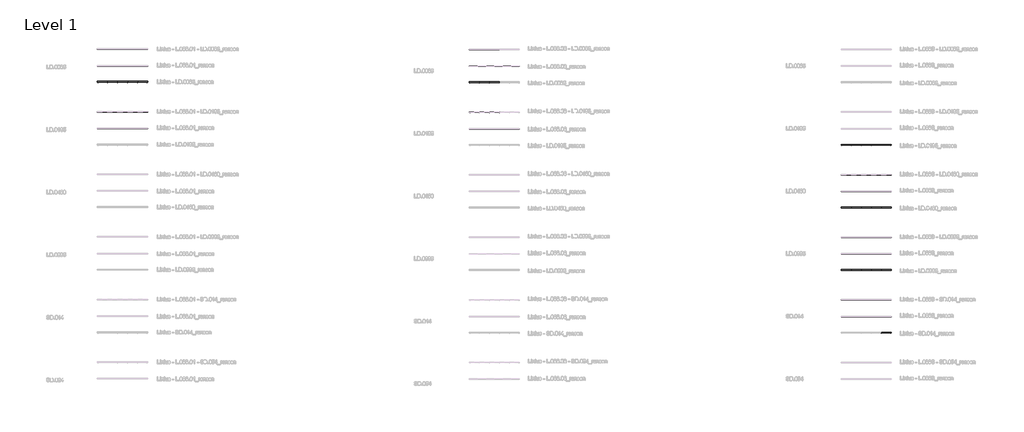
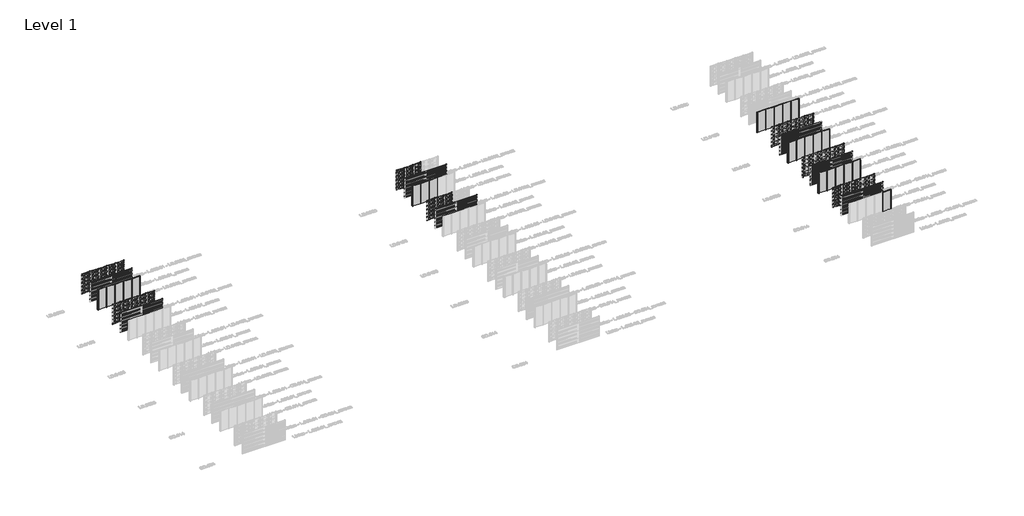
# One storey, part 5 of 540: 66 members, 62 plates.
"""IFC4 building model written with IfcOpenShell, lengths in millimetres."""

from ifc_helpers import new_model, si_unit, origin, origin_with_axes, place, context, project, spatial, polyline, outline, extrude, transform, mapped, element, save
from components import rectangular_mullion_42be434b, rectangular_mullion_e1f482b2, rectangular_mullion_21e3ddae, rectangular_mullion_fb497acc, rectangular_mullion_3facce28, rectangular_mullion_ffdfeaf4, rectangular_mullion_e0a14876, rectangular_mullion_146f339b, rectangular_mullion_aa1047c5, rectangular_mullion_c2c7736a, rectangular_mullion_35b0a916, rectangular_mullion_bd250e2e, rectangular_mullion_7b49c8f1, rectangular_mullion_2b84ad7e, rectangular_mullion_0fd695e7, empty_system_panel_empty_aabbdda4

model = new_model("IFC4")

# Units and contexts
model_context = context("Model", 3, world=origin())
ifc_project = project(units=[si_unit("LENGTHUNIT", "METRE", prefix="MILLI")], contexts=[model_context])

# Site, building, storey
site = spatial("IfcSite", under=ifc_project)
building = spatial("IfcBuilding", under=site)
storey = spatial("IfcBuildingStorey", under=building, Name="Level 1", Elevation=0.0)

# Members
placement = place(None, origin())
rectangular_mullion_shape = rectangular_mullion_42be434b(model_context)
element("IfcMember", 1, ObjectType="Rectangular Mullion : LD.0065_renson", at=placement, inside=storey, context=model_context, shape_type="MappedRepresentation", body=[
    mapped(rectangular_mullion_shape, transform((4066.6208096, 74024.0540136, 0.0), x_axis=(-1.0, 0.0, 0.0), y_axis=(0.0, 1.0, 0.0), z_axis=(0.0, 0.0, -1.0))),
])
element("IfcMember", 2, ObjectType="Rectangular Mullion : LD.0065_renson", at=placement, inside=storey, context=model_context, shape_type="MappedRepresentation", body=[
    mapped(rectangular_mullion_shape, transform((2866.6208097, 74024.0540136, 0.0), x_axis=(-1.0, 0.0, 0.0), y_axis=(0.0, 1.0, 0.0), z_axis=(0.0, 0.0, -1.0))),
])
element("IfcMember", 3, ObjectType="Rectangular Mullion : LD.0065_renson", at=placement, inside=storey, context=model_context, shape_type="MappedRepresentation", body=[
    mapped(rectangular_mullion_shape, transform((1666.6208099, 74024.0540136, 0.0), x_axis=(-1.0, 0.0, 0.0), y_axis=(0.0, 1.0, 0.0), z_axis=(0.0, 0.0, -1.0))),
])
element("IfcMember", 4, ObjectType="Rectangular Mullion : LD.0065_renson", at=placement, inside=storey, context=model_context, shape_type="MappedRepresentation", body=[
    mapped(rectangular_mullion_shape, transform((4066.6208096, 70024.0540136, 0.0), x_axis=(-1.0, 0.0, 0.0), y_axis=(0.0, 1.0, 0.0), z_axis=(0.0, 0.0, -1.0))),
])
element("IfcMember", 5, ObjectType="Rectangular Mullion : LD.0065_renson", at=placement, inside=storey, context=model_context, shape_type="MappedRepresentation", body=[
    mapped(rectangular_mullion_shape, transform((2866.6208097, 70024.0540136, 0.0), x_axis=(-1.0, 0.0, 0.0), y_axis=(0.0, 1.0, 0.0), z_axis=(0.0, 0.0, -1.0))),
])
element("IfcMember", 6, ObjectType="Rectangular Mullion : LD.0065_renson", at=placement, inside=storey, context=model_context, shape_type="MappedRepresentation", body=[
    mapped(rectangular_mullion_shape, transform((1666.6208099, 70024.0540136, 0.0), x_axis=(-1.0, 0.0, 0.0), y_axis=(0.0, 1.0, 0.0), z_axis=(0.0, 0.0, -1.0))),
])
element("IfcMember", 7, ObjectType="Rectangular Mullion : LD.0065_renson", at=placement, inside=storey, context=model_context, shape_type="MappedRepresentation", body=[
    mapped(rectangular_mullion_shape, transform((5266.6208095, 70024.0540136, 0.0), x_axis=(-1.0, 0.0, 0.0), y_axis=(0.0, 1.0, 0.0), z_axis=(0.0, 0.0, -1.0))),
])
element("IfcMember", 8, ObjectType="Rectangular Mullion : LD.0065_renson", at=placement, inside=storey, context=model_context, shape_type="MappedRepresentation", body=[
    mapped(rectangular_mullion_shape, transform((5266.6208095, 74024.0540136, 0.0), x_axis=(-1.0, 0.0, 0.0), y_axis=(0.0, 1.0, 0.0), z_axis=(0.0, 0.0, -1.0))),
])
element("IfcMember", 9, ObjectType="Rectangular Mullion : LD.0065_renson", at=placement, inside=storey, context=model_context, shape_type="MappedRepresentation", body=[
    mapped(rectangular_mullion_shape, transform((47366.6208097, 73981.0540136, 0.0), x_axis=(-1.0, 0.0, 0.0), y_axis=(0.0, 1.0, 0.0), z_axis=(0.0, 0.0, -1.0))),
])
element("IfcMember", 10, ObjectType="Rectangular Mullion : LD.0065_renson", at=placement, inside=storey, context=model_context, shape_type="MappedRepresentation", body=[
    mapped(rectangular_mullion_shape, transform((46166.6208097, 73981.0540136, 0.0), x_axis=(-1.0, 0.0, 0.0), y_axis=(0.0, 1.0, 0.0), z_axis=(0.0, 0.0, -1.0))),
])
element("IfcMember", 11, ObjectType="Rectangular Mullion : LD.0065_renson", at=placement, inside=storey, context=model_context, shape_type="MappedRepresentation", body=[
    mapped(rectangular_mullion_shape, transform((47366.6208097, 69981.0540136, 0.0), x_axis=(-1.0, 0.0, 0.0), y_axis=(0.0, 1.0, 0.0), z_axis=(0.0, 0.0, -1.0))),
])
element("IfcMember", 12, ObjectType="Rectangular Mullion : LD.0065_renson", at=placement, inside=storey, context=model_context, shape_type="MappedRepresentation", body=[
    mapped(rectangular_mullion_shape, transform((46166.6208097, 69981.0540136, 0.0), x_axis=(-1.0, 0.0, 0.0), y_axis=(0.0, 1.0, 0.0), z_axis=(0.0, 0.0, -1.0))),
])
rectangular_mullion_2_shape = rectangular_mullion_e1f482b2(model_context)
element("IfcMember", 13, ObjectType="Rectangular Mullion : LD.0195_renson", at=placement, inside=storey, context=model_context, shape_type="MappedRepresentation", body=[
    mapped(rectangular_mullion_2_shape, transform((4066.6208096, 66524.0540136, 0.0), x_axis=(-1.0, 0.0, 0.0), y_axis=(0.0, 1.0, 0.0), z_axis=(0.0, 0.0, -1.0))),
])
element("IfcMember", 14, ObjectType="Rectangular Mullion : LD.0195_renson", at=placement, inside=storey, context=model_context, shape_type="MappedRepresentation", body=[
    mapped(rectangular_mullion_2_shape, transform((2866.6208097, 66524.0540136, 0.0), x_axis=(-1.0, 0.0, 0.0), y_axis=(0.0, 1.0, 0.0), z_axis=(0.0, 0.0, -1.0))),
])
element("IfcMember", 15, ObjectType="Rectangular Mullion : LD.0195_renson", at=placement, inside=storey, context=model_context, shape_type="MappedRepresentation", body=[
    mapped(rectangular_mullion_2_shape, transform((1666.6208099, 66524.0540136, 0.0), x_axis=(-1.0, 0.0, 0.0), y_axis=(0.0, 1.0, 0.0), z_axis=(0.0, 0.0, -1.0))),
])
element("IfcMember", 16, ObjectType="Rectangular Mullion : LD.0195_renson", at=placement, inside=storey, context=model_context, shape_type="MappedRepresentation", body=[
    mapped(rectangular_mullion_2_shape, transform((5266.6208095, 66524.0540136, 0.0), x_axis=(-1.0, 0.0, 0.0), y_axis=(0.0, 1.0, 0.0), z_axis=(0.0, 0.0, -1.0))),
])
element("IfcMember", 17, ObjectType="Rectangular Mullion : LD.0195_renson", at=placement, inside=storey, context=model_context, shape_type="MappedRepresentation", body=[
    mapped(rectangular_mullion_2_shape, transform((48566.6208097, 66481.0540136, 0.0), x_axis=(-1.0, 0.0, 0.0), y_axis=(0.0, 1.0, 0.0), z_axis=(0.0, 0.0, -1.0))),
])
element("IfcMember", 18, ObjectType="Rectangular Mullion : LD.0195_renson", at=placement, inside=storey, context=model_context, shape_type="MappedRepresentation", body=[
    mapped(rectangular_mullion_2_shape, transform((47366.6208097, 66481.0540136, 0.0), x_axis=(-1.0, 0.0, 0.0), y_axis=(0.0, 1.0, 0.0), z_axis=(0.0, 0.0, -1.0))),
])
element("IfcMember", 19, ObjectType="Rectangular Mullion : LD.0195_renson", at=placement, inside=storey, context=model_context, shape_type="MappedRepresentation", body=[
    mapped(rectangular_mullion_2_shape, transform((46166.6208097, 66481.0540136, 0.0), x_axis=(-1.0, 0.0, 0.0), y_axis=(0.0, 1.0, 0.0), z_axis=(0.0, 0.0, -1.0))),
])
element("IfcMember", 20, ObjectType="Rectangular Mullion : LD.0195_renson", at=placement, inside=storey, context=model_context, shape_type="MappedRepresentation", body=[
    mapped(rectangular_mullion_2_shape, transform((94266.6208095, 62483.0540136, 0.0), x_axis=(-1.0, 0.0, 0.0), y_axis=(0.0, 1.0, 0.0), z_axis=(0.0, 0.0, -1.0))),
])
element("IfcMember", 21, ObjectType="Rectangular Mullion : LD.0195_renson", at=placement, inside=storey, context=model_context, shape_type="MappedRepresentation", body=[
    mapped(rectangular_mullion_2_shape, transform((93066.6208096, 62483.0540136, 0.0), x_axis=(-1.0, 0.0, 0.0), y_axis=(0.0, 1.0, 0.0), z_axis=(0.0, 0.0, -1.0))),
])
element("IfcMember", 22, ObjectType="Rectangular Mullion : LD.0195_renson", at=placement, inside=storey, context=model_context, shape_type="MappedRepresentation", body=[
    mapped(rectangular_mullion_2_shape, transform((91866.6208097, 62483.0540136, 0.0), x_axis=(-1.0, 0.0, 0.0), y_axis=(0.0, 1.0, 0.0), z_axis=(0.0, 0.0, -1.0))),
])
element("IfcMember", 23, ObjectType="Rectangular Mullion : LD.0195_renson", at=placement, inside=storey, context=model_context, shape_type="MappedRepresentation", body=[
    mapped(rectangular_mullion_2_shape, transform((90666.6208099, 62483.0540136, 0.0), x_axis=(-1.0, 0.0, 0.0), y_axis=(0.0, 1.0, 0.0), z_axis=(0.0, 0.0, -1.0))),
])
rectangular_mullion_3_shape = rectangular_mullion_21e3ddae(model_context)
element("IfcMember", 24, ObjectType="Rectangular Mullion : LD.0460_renson", at=placement, inside=storey, context=model_context, shape_type="MappedRepresentation", body=[
    mapped(rectangular_mullion_3_shape, transform((93066.6208096, 58983.0540136, 0.0), x_axis=(-1.0, 0.0, 0.0), y_axis=(0.0, 1.0, 0.0), z_axis=(0.0, 0.0, -1.0))),
])
element("IfcMember", 25, ObjectType="Rectangular Mullion : LD.0460_renson", at=placement, inside=storey, context=model_context, shape_type="MappedRepresentation", body=[
    mapped(rectangular_mullion_3_shape, transform((91866.6208097, 58983.0540136, 0.0), x_axis=(-1.0, 0.0, 0.0), y_axis=(0.0, 1.0, 0.0), z_axis=(0.0, 0.0, -1.0))),
])
element("IfcMember", 26, ObjectType="Rectangular Mullion : LD.0460_renson", at=placement, inside=storey, context=model_context, shape_type="MappedRepresentation", body=[
    mapped(rectangular_mullion_3_shape, transform((90666.6208099, 58983.0540136, 0.0), x_axis=(-1.0, 0.0, 0.0), y_axis=(0.0, 1.0, 0.0), z_axis=(0.0, 0.0, -1.0))),
])
element("IfcMember", 27, ObjectType="Rectangular Mullion : LD.0460_renson", at=placement, inside=storey, context=model_context, shape_type="MappedRepresentation", body=[
    mapped(rectangular_mullion_3_shape, transform((94266.6208095, 54983.0540136, 0.0), x_axis=(-1.0, 0.0, 0.0), y_axis=(0.0, 1.0, 0.0), z_axis=(0.0, 0.0, -1.0))),
])
element("IfcMember", 28, ObjectType="Rectangular Mullion : LD.0460_renson", at=placement, inside=storey, context=model_context, shape_type="MappedRepresentation", body=[
    mapped(rectangular_mullion_3_shape, transform((93066.6208096, 54983.0540136, 0.0), x_axis=(-1.0, 0.0, 0.0), y_axis=(0.0, 1.0, 0.0), z_axis=(0.0, 0.0, -1.0))),
])
element("IfcMember", 29, ObjectType="Rectangular Mullion : LD.0460_renson", at=placement, inside=storey, context=model_context, shape_type="MappedRepresentation", body=[
    mapped(rectangular_mullion_3_shape, transform((91866.6208097, 54983.0540136, 0.0), x_axis=(-1.0, 0.0, 0.0), y_axis=(0.0, 1.0, 0.0), z_axis=(0.0, 0.0, -1.0))),
])
element("IfcMember", 30, ObjectType="Rectangular Mullion : LD.0460_renson", at=placement, inside=storey, context=model_context, shape_type="MappedRepresentation", body=[
    mapped(rectangular_mullion_3_shape, transform((90666.6208099, 54983.0540136, 0.0), x_axis=(-1.0, 0.0, 0.0), y_axis=(0.0, 1.0, 0.0), z_axis=(0.0, 0.0, -1.0))),
])
element("IfcMember", 31, ObjectType="Rectangular Mullion : LD.0460_renson", at=placement, inside=storey, context=model_context, shape_type="MappedRepresentation", body=[
    mapped(rectangular_mullion_3_shape, transform((94266.6208095, 58983.0540136, 0.0), x_axis=(-1.0, 0.0, 0.0), y_axis=(0.0, 1.0, 0.0), z_axis=(0.0, 0.0, -1.0))),
])
rectangular_mullion_4_shape = rectangular_mullion_fb497acc(model_context)
element("IfcMember", 32, ObjectType="Rectangular Mullion : LD.0995_renson", at=placement, inside=storey, context=model_context, shape_type="MappedRepresentation", body=[
    mapped(rectangular_mullion_4_shape, transform((93066.6208096, 51483.0540136, 0.0), x_axis=(-1.0, 0.0, 0.0), y_axis=(0.0, 1.0, 0.0), z_axis=(0.0, 0.0, -1.0))),
])
element("IfcMember", 33, ObjectType="Rectangular Mullion : LD.0995_renson", at=placement, inside=storey, context=model_context, shape_type="MappedRepresentation", body=[
    mapped(rectangular_mullion_4_shape, transform((91866.6208097, 51483.0540136, 0.0), x_axis=(-1.0, 0.0, 0.0), y_axis=(0.0, 1.0, 0.0), z_axis=(0.0, 0.0, -1.0))),
])
element("IfcMember", 34, ObjectType="Rectangular Mullion : LD.0995_renson", at=placement, inside=storey, context=model_context, shape_type="MappedRepresentation", body=[
    mapped(rectangular_mullion_4_shape, transform((90666.6208099, 51483.0540136, 0.0), x_axis=(-1.0, 0.0, 0.0), y_axis=(0.0, 1.0, 0.0), z_axis=(0.0, 0.0, -1.0))),
])
element("IfcMember", 35, ObjectType="Rectangular Mullion : LD.0995_renson", at=placement, inside=storey, context=model_context, shape_type="MappedRepresentation", body=[
    mapped(rectangular_mullion_4_shape, transform((94266.6208095, 47483.0540136, 0.0), x_axis=(-1.0, 0.0, 0.0), y_axis=(0.0, 1.0, 0.0), z_axis=(0.0, 0.0, -1.0))),
])
element("IfcMember", 36, ObjectType="Rectangular Mullion : LD.0995_renson", at=placement, inside=storey, context=model_context, shape_type="MappedRepresentation", body=[
    mapped(rectangular_mullion_4_shape, transform((93066.6208096, 47483.0540136, 0.0), x_axis=(-1.0, 0.0, 0.0), y_axis=(0.0, 1.0, 0.0), z_axis=(0.0, 0.0, -1.0))),
])
element("IfcMember", 37, ObjectType="Rectangular Mullion : LD.0995_renson", at=placement, inside=storey, context=model_context, shape_type="MappedRepresentation", body=[
    mapped(rectangular_mullion_4_shape, transform((91866.6208097, 47483.0540136, 0.0), x_axis=(-1.0, 0.0, 0.0), y_axis=(0.0, 1.0, 0.0), z_axis=(0.0, 0.0, -1.0))),
])
element("IfcMember", 38, ObjectType="Rectangular Mullion : LD.0995_renson", at=placement, inside=storey, context=model_context, shape_type="MappedRepresentation", body=[
    mapped(rectangular_mullion_4_shape, transform((90666.6208099, 47483.0540136, 0.0), x_axis=(-1.0, 0.0, 0.0), y_axis=(0.0, 1.0, 0.0), z_axis=(0.0, 0.0, -1.0))),
])
element("IfcMember", 39, ObjectType="Rectangular Mullion : LD.0995_renson", at=placement, inside=storey, context=model_context, shape_type="MappedRepresentation", body=[
    mapped(rectangular_mullion_4_shape, transform((94266.6208095, 51483.0540136, 0.0), x_axis=(-1.0, 0.0, 0.0), y_axis=(0.0, 1.0, 0.0), z_axis=(0.0, 0.0, -1.0))),
])
rectangular_mullion_5_shape = rectangular_mullion_3facce28(model_context)
element("IfcMember", 40, ObjectType="Rectangular Mullion : SD.014_renson", at=placement, inside=storey, context=model_context, shape_type="MappedRepresentation", body=[
    mapped(rectangular_mullion_5_shape, transform((93066.6208096, 43983.0540136, 0.0), x_axis=(-1.0, 0.0, 0.0), y_axis=(0.0, 1.0, 0.0), z_axis=(0.0, 0.0, -1.0))),
])
element("IfcMember", 41, ObjectType="Rectangular Mullion : SD.014_renson", at=placement, inside=storey, context=model_context, shape_type="MappedRepresentation", body=[
    mapped(rectangular_mullion_5_shape, transform((91866.6208097, 43983.0540136, 0.0), x_axis=(-1.0, 0.0, 0.0), y_axis=(0.0, 1.0, 0.0), z_axis=(0.0, 0.0, -1.0))),
])
element("IfcMember", 42, ObjectType="Rectangular Mullion : SD.014_renson", at=placement, inside=storey, context=model_context, shape_type="MappedRepresentation", body=[
    mapped(rectangular_mullion_5_shape, transform((90666.6208099, 43983.0540136, 0.0), x_axis=(-1.0, 0.0, 0.0), y_axis=(0.0, 1.0, 0.0), z_axis=(0.0, 0.0, -1.0))),
])
element("IfcMember", 43, ObjectType="Rectangular Mullion : SD.014_renson", at=placement, inside=storey, context=model_context, shape_type="MappedRepresentation", body=[
    mapped(rectangular_mullion_5_shape, transform((94266.6208095, 39983.0540136, 0.0), x_axis=(-1.0, 0.0, 0.0), y_axis=(0.0, 1.0, 0.0), z_axis=(0.0, 0.0, -1.0))),
])
element("IfcMember", 44, ObjectType="Rectangular Mullion : SD.014_renson", at=placement, inside=storey, context=model_context, shape_type="MappedRepresentation", body=[
    mapped(rectangular_mullion_5_shape, transform((94266.6208095, 43983.0540136, 0.0), x_axis=(-1.0, 0.0, 0.0), y_axis=(0.0, 1.0, 0.0), z_axis=(0.0, 0.0, -1.0))),
])
rectangular_mullion_6_shape = rectangular_mullion_ffdfeaf4(model_context)
element("IfcMember", 45, ObjectType="Rectangular Mullion : LD.0065 - left_renson", at=placement, inside=storey, context=model_context, shape_type="MappedRepresentation", body=[
    mapped(rectangular_mullion_6_shape, transform((466.6208097, 74024.0540136, 0.0), x_axis=(-1.0, 0.0, 0.0), y_axis=(0.0, 1.0, 0.0), z_axis=(0.0, 0.0, -1.0))),
])
element("IfcMember", 46, ObjectType="Rectangular Mullion : LD.0065 - left_renson", at=placement, inside=storey, context=model_context, shape_type="MappedRepresentation", body=[
    mapped(rectangular_mullion_6_shape, transform((466.6208097, 70024.0540136, 0.0), x_axis=(-1.0, 0.0, 0.0), y_axis=(0.0, 1.0, 0.0), z_axis=(0.0, 0.0, -1.0))),
])
element("IfcMember", 47, ObjectType="Rectangular Mullion : LD.0065 - left_renson", at=placement, inside=storey, context=model_context, shape_type="MappedRepresentation", body=[
    mapped(rectangular_mullion_6_shape, transform((44966.6208097, 73981.0540136, 0.0), x_axis=(-1.0, 0.0, 0.0), y_axis=(0.0, 1.0, 0.0), z_axis=(0.0, 0.0, -1.0))),
])
element("IfcMember", 48, ObjectType="Rectangular Mullion : LD.0065 - left_renson", at=placement, inside=storey, context=model_context, shape_type="MappedRepresentation", body=[
    mapped(rectangular_mullion_6_shape, transform((44966.6208097, 69981.0540136, 0.0), x_axis=(-1.0, 0.0, 0.0), y_axis=(0.0, 1.0, 0.0), z_axis=(0.0, 0.0, -1.0))),
])
rectangular_mullion_7_shape = rectangular_mullion_e0a14876(model_context)
element("IfcMember", 49, ObjectType="Rectangular Mullion : LD.0065 - right_renson", at=placement, inside=storey, context=model_context, shape_type="MappedRepresentation", body=[
    mapped(rectangular_mullion_7_shape, transform((6466.6208097, 74024.0540136, 3000.0), x_axis=(1.0, 0.0, 0.0), y_axis=(0.0, 1.0, 0.0), z_axis=(0.0, 0.0, 1.0))),
])
element("IfcMember", 50, ObjectType="Rectangular Mullion : LD.0065 - right_renson", at=placement, inside=storey, context=model_context, shape_type="MappedRepresentation", body=[
    mapped(rectangular_mullion_7_shape, transform((6466.6208097, 70024.0540136, 3000.0), x_axis=(1.0, 0.0, 0.0), y_axis=(0.0, 1.0, 0.0), z_axis=(0.0, 0.0, 1.0))),
])
rectangular_mullion_8_shape = rectangular_mullion_146f339b(model_context)
element("IfcMember", 51, ObjectType="Rectangular Mullion : LD.0195 - left_renson", at=placement, inside=storey, context=model_context, shape_type="MappedRepresentation", body=[
    mapped(rectangular_mullion_8_shape, transform((466.6208097, 66524.0540136, 0.0), x_axis=(-1.0, 0.0, 0.0), y_axis=(0.0, 1.0, 0.0), z_axis=(0.0, 0.0, -1.0))),
])
element("IfcMember", 52, ObjectType="Rectangular Mullion : LD.0195 - left_renson", at=placement, inside=storey, context=model_context, shape_type="MappedRepresentation", body=[
    mapped(rectangular_mullion_8_shape, transform((44966.6208097, 66481.0540136, 0.0), x_axis=(-1.0, 0.0, 0.0), y_axis=(0.0, 1.0, 0.0), z_axis=(0.0, 0.0, -1.0))),
])
element("IfcMember", 53, ObjectType="Rectangular Mullion : LD.0195 - left_renson", at=placement, inside=storey, context=model_context, shape_type="MappedRepresentation", body=[
    mapped(rectangular_mullion_8_shape, transform((89466.6208097, 62483.0540136, 0.0), x_axis=(-1.0, 0.0, 0.0), y_axis=(0.0, 1.0, 0.0), z_axis=(0.0, 0.0, -1.0))),
])
rectangular_mullion_9_shape = rectangular_mullion_aa1047c5(model_context)
element("IfcMember", 54, ObjectType="Rectangular Mullion : LD.0195 - right_renson", at=placement, inside=storey, context=model_context, shape_type="MappedRepresentation", body=[
    mapped(rectangular_mullion_9_shape, transform((6466.6208097, 66524.0540136, 3000.0), x_axis=(1.0, 0.0, 0.0), y_axis=(0.0, 1.0, 0.0), z_axis=(0.0, 0.0, 1.0))),
])
element("IfcMember", 55, ObjectType="Rectangular Mullion : LD.0195 - right_renson", at=placement, inside=storey, context=model_context, shape_type="MappedRepresentation", body=[
    mapped(rectangular_mullion_9_shape, transform((95466.6208097, 62483.0540136, 3000.0), x_axis=(1.0, 0.0, 0.0), y_axis=(0.0, 1.0, 0.0), z_axis=(0.0, 0.0, 1.0))),
])
rectangular_mullion_10_shape = rectangular_mullion_c2c7736a(model_context)
element("IfcMember", 56, ObjectType="Rectangular Mullion : LD.0460 - left_renson", at=placement, inside=storey, context=model_context, shape_type="MappedRepresentation", body=[
    mapped(rectangular_mullion_10_shape, transform((89466.6208097, 58983.0540136, 0.0), x_axis=(-1.0, 0.0, 0.0), y_axis=(0.0, 1.0, 0.0), z_axis=(0.0, 0.0, -1.0))),
])
element("IfcMember", 57, ObjectType="Rectangular Mullion : LD.0460 - left_renson", at=placement, inside=storey, context=model_context, shape_type="MappedRepresentation", body=[
    mapped(rectangular_mullion_10_shape, transform((89466.6208097, 54983.0540136, 0.0), x_axis=(-1.0, 0.0, 0.0), y_axis=(0.0, 1.0, 0.0), z_axis=(0.0, 0.0, -1.0))),
])
rectangular_mullion_11_shape = rectangular_mullion_35b0a916(model_context)
element("IfcMember", 58, ObjectType="Rectangular Mullion : LD.0460 - right_renson", at=placement, inside=storey, context=model_context, shape_type="MappedRepresentation", body=[
    mapped(rectangular_mullion_11_shape, transform((95466.6208097, 58983.0540136, 3000.0), x_axis=(1.0, 0.0, 0.0), y_axis=(0.0, 1.0, 0.0), z_axis=(0.0, 0.0, 1.0))),
])
element("IfcMember", 59, ObjectType="Rectangular Mullion : LD.0460 - right_renson", at=placement, inside=storey, context=model_context, shape_type="MappedRepresentation", body=[
    mapped(rectangular_mullion_11_shape, transform((95466.6208097, 54983.0540136, 3000.0), x_axis=(1.0, 0.0, 0.0), y_axis=(0.0, 1.0, 0.0), z_axis=(0.0, 0.0, 1.0))),
])
rectangular_mullion_12_shape = rectangular_mullion_bd250e2e(model_context)
element("IfcMember", 60, ObjectType="Rectangular Mullion : LD.0995 - left_renson", at=placement, inside=storey, context=model_context, shape_type="MappedRepresentation", body=[
    mapped(rectangular_mullion_12_shape, transform((89466.6208097, 51483.0540136, 0.0), x_axis=(-1.0, 0.0, 0.0), y_axis=(0.0, 1.0, 0.0), z_axis=(0.0, 0.0, -1.0))),
])
element("IfcMember", 61, ObjectType="Rectangular Mullion : LD.0995 - left_renson", at=placement, inside=storey, context=model_context, shape_type="MappedRepresentation", body=[
    mapped(rectangular_mullion_12_shape, transform((89466.6208097, 47483.0540136, 0.0), x_axis=(-1.0, 0.0, 0.0), y_axis=(0.0, 1.0, 0.0), z_axis=(0.0, 0.0, -1.0))),
])
rectangular_mullion_13_shape = rectangular_mullion_7b49c8f1(model_context)
element("IfcMember", 62, ObjectType="Rectangular Mullion : LD.0995 - right_renson", at=placement, inside=storey, context=model_context, shape_type="MappedRepresentation", body=[
    mapped(rectangular_mullion_13_shape, transform((95466.6208097, 51483.0540136, 3000.0), x_axis=(1.0, 0.0, 0.0), y_axis=(0.0, 1.0, 0.0), z_axis=(0.0, 0.0, 1.0))),
])
element("IfcMember", 63, ObjectType="Rectangular Mullion : LD.0995 - right_renson", at=placement, inside=storey, context=model_context, shape_type="MappedRepresentation", body=[
    mapped(rectangular_mullion_13_shape, transform((95466.6208097, 47483.0540136, 3000.0), x_axis=(1.0, 0.0, 0.0), y_axis=(0.0, 1.0, 0.0), z_axis=(0.0, 0.0, 1.0))),
])
rectangular_mullion_14_shape = rectangular_mullion_2b84ad7e(model_context)
element("IfcMember", 64, ObjectType="Rectangular Mullion : SD.014 - left_renson", at=placement, inside=storey, context=model_context, shape_type="MappedRepresentation", body=[
    mapped(rectangular_mullion_14_shape, transform((89466.6208097, 43983.0540136, 0.0), x_axis=(-1.0, 0.0, 0.0), y_axis=(0.0, 1.0, 0.0), z_axis=(0.0, 0.0, -1.0))),
])
rectangular_mullion_15_shape = rectangular_mullion_0fd695e7(model_context)
element("IfcMember", 65, ObjectType="Rectangular Mullion : SD.014 - right_renson", at=placement, inside=storey, context=model_context, shape_type="MappedRepresentation", body=[
    mapped(rectangular_mullion_15_shape, transform((95466.6208097, 43983.0540136, 3000.0), x_axis=(1.0, 0.0, 0.0), y_axis=(0.0, 1.0, 0.0), z_axis=(0.0, 0.0, 1.0))),
])
element("IfcMember", 66, ObjectType="Rectangular Mullion : SD.014 - right_renson", at=placement, inside=storey, context=model_context, shape_type="MappedRepresentation", body=[
    mapped(rectangular_mullion_15_shape, transform((95466.6208097, 39983.0540136, 3000.0), x_axis=(1.0, 0.0, 0.0), y_axis=(0.0, 1.0, 0.0), z_axis=(0.0, 0.0, 1.0))),
])

# Plates
element("IfcPlate", 67, ObjectType="Linius - L.066.01_renson", at=placement, inside=storey, context=model_context, shape_type="SweptSolid", body=[
    extrude(outline(polyline([(466.6208097, 74025.0540136), (1666.6208099, 74025.0540136), (1666.6208099, 74023.0540136), (466.6208097, 74023.0540136), (466.6208097, 74025.0540136)])), origin_with_axes(), (0.0, 0.0, 1.0), 3000.0),
])
element("IfcPlate", 68, ObjectType="Linius - L.066.01_renson", at=placement, inside=storey, context=model_context, shape_type="SweptSolid", body=[
    extrude(outline(polyline([(1666.6208099, 74025.0540136), (2866.6208097, 74025.0540136), (2866.6208097, 74023.0540136), (1666.6208099, 74023.0540136), (1666.6208099, 74025.0540136)])), origin_with_axes(), (0.0, 0.0, 1.0), 3000.0),
])
element("IfcPlate", 69, ObjectType="Linius - L.066.01_renson", at=placement, inside=storey, context=model_context, shape_type="SweptSolid", body=[
    extrude(outline(polyline([(2866.6208097, 74025.0540136), (4066.6208096, 74025.0540136), (4066.6208096, 74023.0540136), (2866.6208097, 74023.0540136), (2866.6208097, 74025.0540136)])), origin_with_axes(), (0.0, 0.0, 1.0), 3000.0),
])
element("IfcPlate", 70, ObjectType="Linius - L.066.01_renson", at=placement, inside=storey, context=model_context, shape_type="SweptSolid", body=[
    extrude(outline(polyline([(5266.6208095, 74025.0540136), (6466.6208097, 74025.0540136), (6466.6208097, 74023.0540136), (5266.6208095, 74023.0540136), (5266.6208095, 74025.0540136)])), origin_with_axes(), (0.0, 0.0, 1.0), 3000.0),
])
element("IfcPlate", 71, ObjectType="Linius - L.066.01_renson", at=placement, inside=storey, context=model_context, shape_type="SweptSolid", body=[
    extrude(outline(polyline([(466.6208097, 72025.0540136), (6466.6208097, 72025.0540136), (6466.6208097, 72023.0540136), (466.6208097, 72023.0540136), (466.6208097, 72025.0540136)])), origin_with_axes(), (0.0, 0.0, 1.0), 3000.0),
])
element("IfcPlate", 72, ObjectType="Linius - L.066.01_renson", at=placement, inside=storey, context=model_context, shape_type="SweptSolid", body=[
    extrude(outline(polyline([(466.6208097, 66525.0540136), (1666.6208099, 66525.0540136), (1666.6208099, 66523.0540136), (466.6208097, 66523.0540136), (466.6208097, 66525.0540136)])), origin_with_axes(), (0.0, 0.0, 1.0), 3000.0),
])
element("IfcPlate", 73, ObjectType="Linius - L.066.01_renson", at=placement, inside=storey, context=model_context, shape_type="SweptSolid", body=[
    extrude(outline(polyline([(1666.6208099, 66525.0540136), (2866.6208097, 66525.0540136), (2866.6208097, 66523.0540136), (1666.6208099, 66523.0540136), (1666.6208099, 66525.0540136)])), origin_with_axes(), (0.0, 0.0, 1.0), 3000.0),
])
element("IfcPlate", 74, ObjectType="Linius - L.066.01_renson", at=placement, inside=storey, context=model_context, shape_type="SweptSolid", body=[
    extrude(outline(polyline([(2866.6208097, 66525.0540136), (4066.6208096, 66525.0540136), (4066.6208096, 66523.0540136), (2866.6208097, 66523.0540136), (2866.6208097, 66525.0540136)])), origin_with_axes(), (0.0, 0.0, 1.0), 3000.0),
])
element("IfcPlate", 75, ObjectType="Linius - L.066.01_renson", at=placement, inside=storey, context=model_context, shape_type="SweptSolid", body=[
    extrude(outline(polyline([(5266.6208095, 66525.0540136), (6466.6208097, 66525.0540136), (6466.6208097, 66523.0540136), (5266.6208095, 66523.0540136), (5266.6208095, 66525.0540136)])), origin_with_axes(), (0.0, 0.0, 1.0), 3000.0),
])
element("IfcPlate", 76, ObjectType="Linius - L.066.01_renson", at=placement, inside=storey, context=model_context, shape_type="SweptSolid", body=[
    extrude(outline(polyline([(466.6208097, 64525.0540136), (6466.6208097, 64525.0540136), (6466.6208097, 64523.0540136), (466.6208097, 64523.0540136), (466.6208097, 64525.0540136)])), origin_with_axes(), (0.0, 0.0, 1.0), 3000.0),
])
element("IfcPlate", 77, ObjectType="Linius - L.066.01_renson", at=placement, inside=storey, context=model_context, shape_type="SweptSolid", body=[
    extrude(outline(polyline([(4066.6208096, 74025.0540136), (5266.6208095, 74025.0540136), (5266.6208095, 74023.0540136), (4066.6208096, 74023.0540136), (4066.6208096, 74025.0540136)])), origin_with_axes(), (0.0, 0.0, 1.0), 3000.0),
])
element("IfcPlate", 78, ObjectType="Linius - L.066.01_renson", at=placement, inside=storey, context=model_context, shape_type="SweptSolid", body=[
    extrude(outline(polyline([(4066.6208096, 66525.0540136), (5266.6208095, 66525.0540136), (5266.6208095, 66523.0540136), (4066.6208096, 66523.0540136), (4066.6208096, 66525.0540136)])), origin_with_axes(), (0.0, 0.0, 1.0), 3000.0),
])
element("IfcPlate", 79, ObjectType="Linius - L.066.06_renson", at=placement, inside=storey, context=model_context, shape_type="SweptSolid", body=[
    extrude(outline(polyline([(44966.6208097, 73982.0540136), (46166.6208097, 73982.0540136), (46166.6208097, 73980.0540136), (44966.6208097, 73980.0540136), (44966.6208097, 73982.0540136)])), origin_with_axes(), (0.0, 0.0, 1.0), 3000.0),
])
element("IfcPlate", 80, ObjectType="Linius - L.066.06_renson", at=placement, inside=storey, context=model_context, shape_type="SweptSolid", body=[
    extrude(outline(polyline([(46166.6208097, 73982.0540136), (47366.6208097, 73982.0540136), (47366.6208097, 73980.0540136), (46166.6208097, 73980.0540136), (46166.6208097, 73982.0540136)])), origin_with_axes(), (0.0, 0.0, 1.0), 3000.0),
])
element("IfcPlate", 81, ObjectType="Linius - L.066.06_renson", at=placement, inside=storey, context=model_context, shape_type="SweptSolid", body=[
    extrude(outline(polyline([(47366.6208097, 73982.0540136), (48566.6208097, 73982.0540136), (48566.6208097, 73980.0540136), (47366.6208097, 73980.0540136), (47366.6208097, 73982.0540136)])), origin_with_axes(), (0.0, 0.0, 1.0), 3000.0),
])
element("IfcPlate", 82, ObjectType="Linius - L.066.06_renson", at=placement, inside=storey, context=model_context, shape_type="SweptSolid", body=[
    extrude(outline(polyline([(44966.6208097, 71982.0540136), (50966.6208097, 71982.0540136), (50966.6208097, 71980.0540136), (44966.6208097, 71980.0540136), (44966.6208097, 71982.0540136)])), origin_with_axes(), (0.0, 0.0, 1.0), 3000.0),
])
element("IfcPlate", 83, ObjectType="Linius - L.066.06_renson", at=placement, inside=storey, context=model_context, shape_type="SweptSolid", body=[
    extrude(outline(polyline([(44966.6208097, 66482.0540136), (46166.6208097, 66482.0540136), (46166.6208097, 66480.0540136), (44966.6208097, 66480.0540136), (44966.6208097, 66482.0540136)])), origin_with_axes(), (0.0, 0.0, 1.0), 3000.0),
])
element("IfcPlate", 84, ObjectType="Linius - L.066.06_renson", at=placement, inside=storey, context=model_context, shape_type="SweptSolid", body=[
    extrude(outline(polyline([(46166.6208097, 66482.0540136), (47366.6208097, 66482.0540136), (47366.6208097, 66480.0540136), (46166.6208097, 66480.0540136), (46166.6208097, 66482.0540136)])), origin_with_axes(), (0.0, 0.0, 1.0), 3000.0),
])
element("IfcPlate", 85, ObjectType="Linius - L.066.06_renson", at=placement, inside=storey, context=model_context, shape_type="SweptSolid", body=[
    extrude(outline(polyline([(47366.6208097, 66482.0540136), (48566.6208097, 66482.0540136), (48566.6208097, 66480.0540136), (47366.6208097, 66480.0540136), (47366.6208097, 66482.0540136)])), origin_with_axes(), (0.0, 0.0, 1.0), 3000.0),
])
element("IfcPlate", 86, ObjectType="Linius - L.066.06_renson", at=placement, inside=storey, context=model_context, shape_type="SweptSolid", body=[
    extrude(outline(polyline([(44966.6208097, 64482.0540136), (50966.6208097, 64482.0540136), (50966.6208097, 64480.0540136), (44966.6208097, 64480.0540136), (44966.6208097, 64482.0540136)])), origin_with_axes(), (0.0, 0.0, 1.0), 3000.0),
])
element("IfcPlate", 87, ObjectType="Linius - L.066S_renson", at=placement, inside=storey, context=model_context, shape_type="SweptSolid", body=[
    extrude(outline(polyline([(89466.6208097, 58984.0540136), (90666.6208099, 58984.0540136), (90666.6208099, 58982.0540136), (89466.6208097, 58982.0540136), (89466.6208097, 58984.0540136)])), origin_with_axes(), (0.0, 0.0, 1.0), 3000.0),
])
element("IfcPlate", 88, ObjectType="Linius - L.066S_renson", at=placement, inside=storey, context=model_context, shape_type="SweptSolid", body=[
    extrude(outline(polyline([(90666.6208099, 58984.0540136), (91866.6208097, 58984.0540136), (91866.6208097, 58982.0540136), (90666.6208099, 58982.0540136), (90666.6208099, 58984.0540136)])), origin_with_axes(), (0.0, 0.0, 1.0), 3000.0),
])
element("IfcPlate", 89, ObjectType="Linius - L.066S_renson", at=placement, inside=storey, context=model_context, shape_type="SweptSolid", body=[
    extrude(outline(polyline([(91866.6208097, 58984.0540136), (93066.6208096, 58984.0540136), (93066.6208096, 58982.0540136), (91866.6208097, 58982.0540136), (91866.6208097, 58984.0540136)])), origin_with_axes(), (0.0, 0.0, 1.0), 3000.0),
])
element("IfcPlate", 90, ObjectType="Linius - L.066S_renson", at=placement, inside=storey, context=model_context, shape_type="SweptSolid", body=[
    extrude(outline(polyline([(94266.6208095, 58984.0540136), (95466.6208097, 58984.0540136), (95466.6208097, 58982.0540136), (94266.6208095, 58982.0540136), (94266.6208095, 58984.0540136)])), origin_with_axes(), (0.0, 0.0, 1.0), 3000.0),
])
element("IfcPlate", 91, ObjectType="Linius - L.066S_renson", at=placement, inside=storey, context=model_context, shape_type="SweptSolid", body=[
    extrude(outline(polyline([(89466.6208097, 56984.0540136), (95466.6208097, 56984.0540136), (95466.6208097, 56982.0540136), (89466.6208097, 56982.0540136), (89466.6208097, 56984.0540136)])), origin_with_axes(), (0.0, 0.0, 1.0), 3000.0),
])
element("IfcPlate", 92, ObjectType="Linius - L.066S_renson", at=placement, inside=storey, context=model_context, shape_type="SweptSolid", body=[
    extrude(outline(polyline([(89466.6208097, 51484.0540136), (90666.6208099, 51484.0540136), (90666.6208099, 51482.0540136), (89466.6208097, 51482.0540136), (89466.6208097, 51484.0540136)])), origin_with_axes(), (0.0, 0.0, 1.0), 3000.0),
])
element("IfcPlate", 93, ObjectType="Linius - L.066S_renson", at=placement, inside=storey, context=model_context, shape_type="SweptSolid", body=[
    extrude(outline(polyline([(90666.6208099, 51484.0540136), (91866.6208097, 51484.0540136), (91866.6208097, 51482.0540136), (90666.6208099, 51482.0540136), (90666.6208099, 51484.0540136)])), origin_with_axes(), (0.0, 0.0, 1.0), 3000.0),
])
element("IfcPlate", 94, ObjectType="Linius - L.066S_renson", at=placement, inside=storey, context=model_context, shape_type="SweptSolid", body=[
    extrude(outline(polyline([(91866.6208097, 51484.0540136), (93066.6208096, 51484.0540136), (93066.6208096, 51482.0540136), (91866.6208097, 51482.0540136), (91866.6208097, 51484.0540136)])), origin_with_axes(), (0.0, 0.0, 1.0), 3000.0),
])
element("IfcPlate", 95, ObjectType="Linius - L.066S_renson", at=placement, inside=storey, context=model_context, shape_type="SweptSolid", body=[
    extrude(outline(polyline([(94266.6208095, 51484.0540136), (95466.6208097, 51484.0540136), (95466.6208097, 51482.0540136), (94266.6208095, 51482.0540136), (94266.6208095, 51484.0540136)])), origin_with_axes(), (0.0, 0.0, 1.0), 3000.0),
])
element("IfcPlate", 96, ObjectType="Linius - L.066S_renson", at=placement, inside=storey, context=model_context, shape_type="SweptSolid", body=[
    extrude(outline(polyline([(89466.6208097, 49484.0540136), (95466.6208097, 49484.0540136), (95466.6208097, 49482.0540136), (89466.6208097, 49482.0540136), (89466.6208097, 49484.0540136)])), origin_with_axes(), (0.0, 0.0, 1.0), 3000.0),
])
element("IfcPlate", 97, ObjectType="Linius - L.066S_renson", at=placement, inside=storey, context=model_context, shape_type="SweptSolid", body=[
    extrude(outline(polyline([(89466.6208097, 43984.0540136), (90666.6208099, 43984.0540136), (90666.6208099, 43982.0540136), (89466.6208097, 43982.0540136), (89466.6208097, 43984.0540136)])), origin_with_axes(), (0.0, 0.0, 1.0), 3000.0),
])
element("IfcPlate", 98, ObjectType="Linius - L.066S_renson", at=placement, inside=storey, context=model_context, shape_type="SweptSolid", body=[
    extrude(outline(polyline([(90666.6208099, 43984.0540136), (91866.6208097, 43984.0540136), (91866.6208097, 43982.0540136), (90666.6208099, 43982.0540136), (90666.6208099, 43984.0540136)])), origin_with_axes(), (0.0, 0.0, 1.0), 3000.0),
])
element("IfcPlate", 99, ObjectType="Linius - L.066S_renson", at=placement, inside=storey, context=model_context, shape_type="SweptSolid", body=[
    extrude(outline(polyline([(91866.6208097, 43984.0540136), (93066.6208096, 43984.0540136), (93066.6208096, 43982.0540136), (91866.6208097, 43982.0540136), (91866.6208097, 43984.0540136)])), origin_with_axes(), (0.0, 0.0, 1.0), 3000.0),
])
element("IfcPlate", 100, ObjectType="Linius - L.066S_renson", at=placement, inside=storey, context=model_context, shape_type="SweptSolid", body=[
    extrude(outline(polyline([(94266.6208095, 43984.0540136), (95466.6208097, 43984.0540136), (95466.6208097, 43982.0540136), (94266.6208095, 43982.0540136), (94266.6208095, 43984.0540136)])), origin_with_axes(), (0.0, 0.0, 1.0), 3000.0),
])
element("IfcPlate", 101, ObjectType="Linius - L.066S_renson", at=placement, inside=storey, context=model_context, shape_type="SweptSolid", body=[
    extrude(outline(polyline([(89466.6208097, 41984.0540136), (95466.6208097, 41984.0540136), (95466.6208097, 41982.0540136), (89466.6208097, 41982.0540136), (89466.6208097, 41984.0540136)])), origin_with_axes(), (0.0, 0.0, 1.0), 3000.0),
])
element("IfcPlate", 102, ObjectType="Linius - L.066S_renson", at=placement, inside=storey, context=model_context, shape_type="SweptSolid", body=[
    extrude(outline(polyline([(93066.6208096, 58984.0540136), (94266.6208095, 58984.0540136), (94266.6208095, 58982.0540136), (93066.6208096, 58982.0540136), (93066.6208096, 58984.0540136)])), origin_with_axes(), (0.0, 0.0, 1.0), 3000.0),
])
element("IfcPlate", 103, ObjectType="Linius - L.066S_renson", at=placement, inside=storey, context=model_context, shape_type="SweptSolid", body=[
    extrude(outline(polyline([(93066.6208096, 51484.0540136), (94266.6208095, 51484.0540136), (94266.6208095, 51482.0540136), (93066.6208096, 51482.0540136), (93066.6208096, 51484.0540136)])), origin_with_axes(), (0.0, 0.0, 1.0), 3000.0),
])
element("IfcPlate", 104, ObjectType="Linius - L.066S_renson", at=placement, inside=storey, context=model_context, shape_type="SweptSolid", body=[
    extrude(outline(polyline([(93066.6208096, 43984.0540136), (94266.6208095, 43984.0540136), (94266.6208095, 43982.0540136), (93066.6208096, 43982.0540136), (93066.6208096, 43984.0540136)])), origin_with_axes(), (0.0, 0.0, 1.0), 3000.0),
])
empty_system_panel_empty_shape = empty_system_panel_empty_aabbdda4(model_context)
element("IfcPlate", 105, ObjectType="Empty System Panel : Empty", at=placement, inside=storey, context=model_context, shape_type="MappedRepresentation", body=[
    mapped(empty_system_panel_empty_shape, transform((5866.6208096, 70024.0540136, 0.0), x_axis=(-1.0, 0.0, 0.0), y_axis=(0.0, -1.0, 0.0), z_axis=(0.0, 0.0, 1.0))),
])
element("IfcPlate", 106, ObjectType="Empty System Panel : Empty", at=placement, inside=storey, context=model_context, shape_type="MappedRepresentation", body=[
    mapped(empty_system_panel_empty_shape, transform((3466.6208097, 70024.0540136, 0.0), x_axis=(-1.0, 0.0, 0.0), y_axis=(0.0, -1.0, 0.0), z_axis=(0.0, 0.0, 1.0))),
])
element("IfcPlate", 107, ObjectType="Empty System Panel : Empty", at=placement, inside=storey, context=model_context, shape_type="MappedRepresentation", body=[
    mapped(empty_system_panel_empty_shape, transform((2266.6208098, 70024.0540136, 0.0), x_axis=(-1.0, 0.0, 0.0), y_axis=(0.0, -1.0, 0.0), z_axis=(0.0, 0.0, 1.0))),
])
element("IfcPlate", 108, ObjectType="Empty System Panel : Empty", at=placement, inside=storey, context=model_context, shape_type="MappedRepresentation", body=[
    mapped(empty_system_panel_empty_shape, transform((1066.6208098, 70024.0540136, 0.0), x_axis=(-1.0, 0.0, 0.0), y_axis=(0.0, -1.0, 0.0), z_axis=(0.0, 0.0, 1.0))),
])
element("IfcPlate", 109, ObjectType="Empty System Panel : Empty", at=placement, inside=storey, context=model_context, shape_type="MappedRepresentation", body=[
    mapped(empty_system_panel_empty_shape, transform((4666.6208096, 70024.0540136, 0.0), x_axis=(-1.0, 0.0, 0.0), y_axis=(0.0, -1.0, 0.0), z_axis=(0.0, 0.0, 1.0))),
])
element("IfcPlate", 110, ObjectType="Empty System Panel : Empty", at=placement, inside=storey, context=model_context, shape_type="MappedRepresentation", body=[
    mapped(empty_system_panel_empty_shape, transform((47966.6208097, 69981.0540136, 0.0), x_axis=(-1.0, 0.0, 0.0), y_axis=(0.0, -1.0, 0.0), z_axis=(0.0, 0.0, 1.0))),
])
element("IfcPlate", 111, ObjectType="Empty System Panel : Empty", at=placement, inside=storey, context=model_context, shape_type="MappedRepresentation", body=[
    mapped(empty_system_panel_empty_shape, transform((46766.6208097, 69981.0540136, 0.0), x_axis=(-1.0, 0.0, 0.0), y_axis=(0.0, -1.0, 0.0), z_axis=(0.0, 0.0, 1.0))),
])
element("IfcPlate", 112, ObjectType="Empty System Panel : Empty", at=placement, inside=storey, context=model_context, shape_type="MappedRepresentation", body=[
    mapped(empty_system_panel_empty_shape, transform((45566.6208097, 69981.0540136, 0.0), x_axis=(-1.0, 0.0, 0.0), y_axis=(0.0, -1.0, 0.0), z_axis=(0.0, 0.0, 1.0))),
])
element("IfcPlate", 113, ObjectType="Empty System Panel : Empty", at=placement, inside=storey, context=model_context, shape_type="MappedRepresentation", body=[
    mapped(empty_system_panel_empty_shape, transform((94866.6208096, 62483.0540136, 0.0), x_axis=(-1.0, 0.0, 0.0), y_axis=(0.0, -1.0, 0.0), z_axis=(0.0, 0.0, 1.0))),
])
element("IfcPlate", 114, ObjectType="Empty System Panel : Empty", at=placement, inside=storey, context=model_context, shape_type="MappedRepresentation", body=[
    mapped(empty_system_panel_empty_shape, transform((94866.6208096, 54983.0540136, 0.0), x_axis=(-1.0, 0.0, 0.0), y_axis=(0.0, -1.0, 0.0), z_axis=(0.0, 0.0, 1.0))),
])
element("IfcPlate", 115, ObjectType="Empty System Panel : Empty", at=placement, inside=storey, context=model_context, shape_type="MappedRepresentation", body=[
    mapped(empty_system_panel_empty_shape, transform((94866.6208096, 47483.0540136, 0.0), x_axis=(-1.0, 0.0, 0.0), y_axis=(0.0, -1.0, 0.0), z_axis=(0.0, 0.0, 1.0))),
])
element("IfcPlate", 116, ObjectType="Empty System Panel : Empty", at=placement, inside=storey, context=model_context, shape_type="MappedRepresentation", body=[
    mapped(empty_system_panel_empty_shape, transform((94866.6208096, 39983.0540136, 0.0), x_axis=(-1.0, 0.0, 0.0), y_axis=(0.0, -1.0, 0.0), z_axis=(0.0, 0.0, 1.0))),
])
element("IfcPlate", 117, ObjectType="Empty System Panel : Empty", at=placement, inside=storey, context=model_context, shape_type="MappedRepresentation", body=[
    mapped(empty_system_panel_empty_shape, transform((93666.6208096, 62483.0540136, 0.0), x_axis=(-1.0, 0.0, 0.0), y_axis=(0.0, -1.0, 0.0), z_axis=(0.0, 0.0, 1.0))),
])
element("IfcPlate", 118, ObjectType="Empty System Panel : Empty", at=placement, inside=storey, context=model_context, shape_type="MappedRepresentation", body=[
    mapped(empty_system_panel_empty_shape, transform((92466.6208097, 62483.0540136, 0.0), x_axis=(-1.0, 0.0, 0.0), y_axis=(0.0, -1.0, 0.0), z_axis=(0.0, 0.0, 1.0))),
])
element("IfcPlate", 119, ObjectType="Empty System Panel : Empty", at=placement, inside=storey, context=model_context, shape_type="MappedRepresentation", body=[
    mapped(empty_system_panel_empty_shape, transform((91266.6208098, 62483.0540136, 0.0), x_axis=(-1.0, 0.0, 0.0), y_axis=(0.0, -1.0, 0.0), z_axis=(0.0, 0.0, 1.0))),
])
element("IfcPlate", 120, ObjectType="Empty System Panel : Empty", at=placement, inside=storey, context=model_context, shape_type="MappedRepresentation", body=[
    mapped(empty_system_panel_empty_shape, transform((90066.6208098, 62483.0540136, 0.0), x_axis=(-1.0, 0.0, 0.0), y_axis=(0.0, -1.0, 0.0), z_axis=(0.0, 0.0, 1.0))),
])
element("IfcPlate", 121, ObjectType="Empty System Panel : Empty", at=placement, inside=storey, context=model_context, shape_type="MappedRepresentation", body=[
    mapped(empty_system_panel_empty_shape, transform((93666.6208096, 54983.0540136, 0.0), x_axis=(-1.0, 0.0, 0.0), y_axis=(0.0, -1.0, 0.0), z_axis=(0.0, 0.0, 1.0))),
])
element("IfcPlate", 122, ObjectType="Empty System Panel : Empty", at=placement, inside=storey, context=model_context, shape_type="MappedRepresentation", body=[
    mapped(empty_system_panel_empty_shape, transform((92466.6208097, 54983.0540136, 0.0), x_axis=(-1.0, 0.0, 0.0), y_axis=(0.0, -1.0, 0.0), z_axis=(0.0, 0.0, 1.0))),
])
element("IfcPlate", 123, ObjectType="Empty System Panel : Empty", at=placement, inside=storey, context=model_context, shape_type="MappedRepresentation", body=[
    mapped(empty_system_panel_empty_shape, transform((91266.6208098, 54983.0540136, 0.0), x_axis=(-1.0, 0.0, 0.0), y_axis=(0.0, -1.0, 0.0), z_axis=(0.0, 0.0, 1.0))),
])
element("IfcPlate", 124, ObjectType="Empty System Panel : Empty", at=placement, inside=storey, context=model_context, shape_type="MappedRepresentation", body=[
    mapped(empty_system_panel_empty_shape, transform((90066.6208098, 54983.0540136, 0.0), x_axis=(-1.0, 0.0, 0.0), y_axis=(0.0, -1.0, 0.0), z_axis=(0.0, 0.0, 1.0))),
])
element("IfcPlate", 125, ObjectType="Empty System Panel : Empty", at=placement, inside=storey, context=model_context, shape_type="MappedRepresentation", body=[
    mapped(empty_system_panel_empty_shape, transform((93666.6208096, 47483.0540136, 0.0), x_axis=(-1.0, 0.0, 0.0), y_axis=(0.0, -1.0, 0.0), z_axis=(0.0, 0.0, 1.0))),
])
element("IfcPlate", 126, ObjectType="Empty System Panel : Empty", at=placement, inside=storey, context=model_context, shape_type="MappedRepresentation", body=[
    mapped(empty_system_panel_empty_shape, transform((92466.6208097, 47483.0540136, 0.0), x_axis=(-1.0, 0.0, 0.0), y_axis=(0.0, -1.0, 0.0), z_axis=(0.0, 0.0, 1.0))),
])
element("IfcPlate", 127, ObjectType="Empty System Panel : Empty", at=placement, inside=storey, context=model_context, shape_type="MappedRepresentation", body=[
    mapped(empty_system_panel_empty_shape, transform((91266.6208098, 47483.0540136, 0.0), x_axis=(-1.0, 0.0, 0.0), y_axis=(0.0, -1.0, 0.0), z_axis=(0.0, 0.0, 1.0))),
])
element("IfcPlate", 128, ObjectType="Empty System Panel : Empty", at=placement, inside=storey, context=model_context, shape_type="MappedRepresentation", body=[
    mapped(empty_system_panel_empty_shape, transform((90066.6208098, 47483.0540136, 0.0), x_axis=(-1.0, 0.0, 0.0), y_axis=(0.0, -1.0, 0.0), z_axis=(0.0, 0.0, 1.0))),
])

save(model, "model.ifc")
